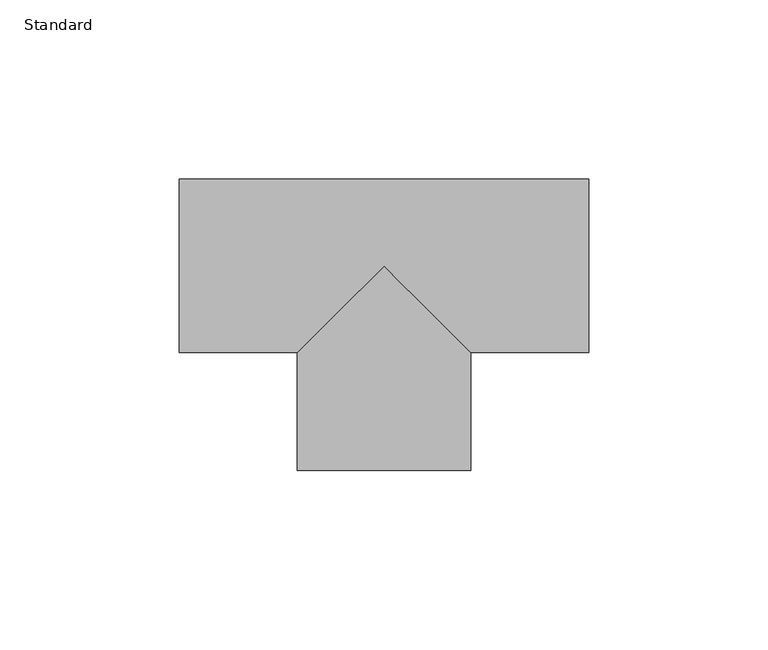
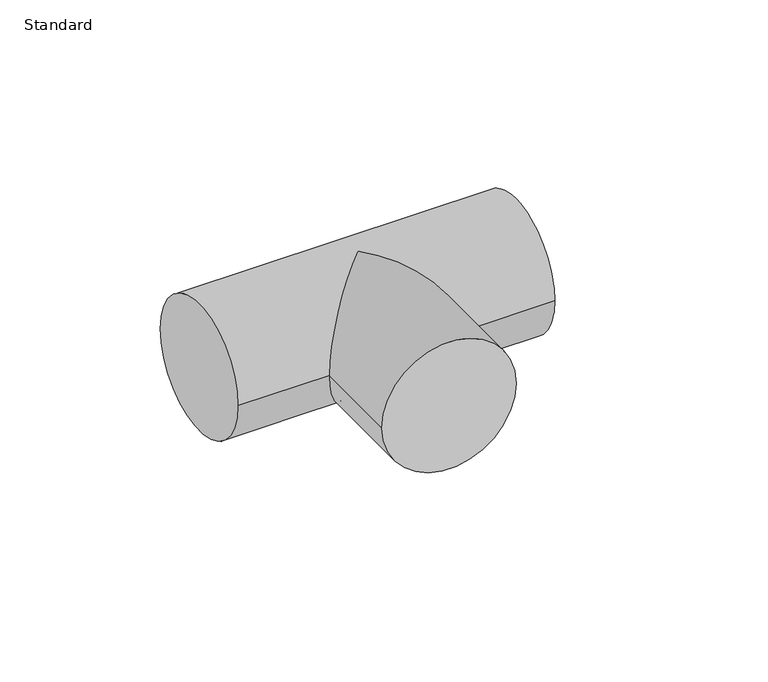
"""IFC4 building model written with IfcOpenShell, lengths in millimetres: pipe fitting geometry, Té - Générique : Standard."""

from ifc_helpers import new_model, si_unit, frame, origin, place, context, project, spatial, circle_curve, ellipse_curve, source, transform, mapped, element, save
from ifc_brep_helpers import plane_surface, cylinder_surface, advanced_brep


def standard_68964c05(model_context):
    return source(origin(), model_context, "Body", "AdvancedBrep", [
        advanced_brep(
        [(-57.0, -24.15, 0.0), (-57.0, 24.15, 0.0), (57.0, -24.15, 0.0), (57.0, 24.15, 0.0), (-24.15, -24.15, 0.0), (0.0, 0.0, 24.15), (24.15, -24.15, 0.0), (0.0, 0.0, -24.15), (-24.15, -57.0, 0.0), (24.15, -57.0, 0.0)],
        [
            (0, 1, circle_curve(frame((-57.0, 0.0, 0.0), z_axis=(-1.0, 0.0, 0.0), x_axis=(0.0, 1.0, 0.0)), 24.15)),
            (1, 0, circle_curve(frame((-57.0, 0.0, 0.0), z_axis=(-1.0, 0.0, 0.0), x_axis=(0.0, 1.0, 0.0)), 24.15)),
            (2, 3, circle_curve(frame((57.0, 0.0, 0.0), z_axis=(1.0, 0.0, 0.0), x_axis=(0.0, 1.0, 0.0)), 24.15)),
            (3, 2, circle_curve(frame((57.0, 0.0, 0.0), z_axis=(1.0, 0.0, 0.0), x_axis=(0.0, 1.0, 0.0)), 24.15)),
            (0, 4),
            (4, 5, ellipse_curve(frame((0.0, 0.0, 0.0), z_axis=(-0.707106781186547, 0.7071067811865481, 0.0), x_axis=(-0.707106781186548, -0.707106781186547, 0.0)), 34.1532575, 24.15)),
            (5, 6, ellipse_curve(frame((0.0, 0.0, 0.0), z_axis=(0.707106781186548, 0.7071067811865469, 0.0), x_axis=(-0.707106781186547, 0.707106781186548, 0.0)), 34.1532575, 24.15)),
            (6, 2),
            (3, 1),
            (6, 7, ellipse_curve(frame((0.0, 0.0, 0.0), z_axis=(0.707106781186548, 0.7071067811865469, 0.0), x_axis=(-0.707106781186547, 0.707106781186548, 0.0)), 34.1532575, 24.15)),
            (7, 4, ellipse_curve(frame((0.0, 0.0, 0.0), z_axis=(-0.707106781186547, 0.7071067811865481, 0.0), x_axis=(-0.707106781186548, -0.707106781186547, 0.0)), 34.1532575, 24.15)),
            (8, 9, circle_curve(frame((0.0, -57.0, 0.0), z_axis=(0.0, -1.0, 0.0), x_axis=(1.0, 0.0, 0.0)), 24.15)),
            (9, 8, circle_curve(frame((0.0, -57.0, 0.0), z_axis=(0.0, -1.0, 0.0), x_axis=(1.0, 0.0, 0.0)), 24.15)),
            (9, 6),
            (4, 8),
        ],
        [
            plane_surface(frame((-57.0, 0.0, 0.0), z_axis=(-1.0, 0.0, 0.0), x_axis=(0.0, 0.0, 1.0))),
            plane_surface(frame((57.0, 0.0, 0.0), z_axis=(1.0, 0.0, 0.0), x_axis=(0.0, 0.0, 1.0))),
            cylinder_surface(frame((-57.0, 0.0, 0.0), z_axis=(-1.0, 0.0, 0.0), x_axis=(0.0, 1.0, 0.0)), 24.15),
            plane_surface(frame((0.0, -57.0, 0.0), z_axis=(0.0, -1.0, 0.0), x_axis=(0.0, 0.0, 1.0))),
            cylinder_surface(frame((0.0, 0.0, 0.0), z_axis=(0.0, 1.0, 0.0), x_axis=(1.0, 0.0, 0.0)), 24.15),
        ],
        [
            (0, [[1, 2]]),
            (1, [[3, 4]]),
            (2, [[-1, 5, 6, 7, 8, -4, 9]]),
            (2, [[-2, -9, -3, -8, 10, 11, -5]]),
            (3, [[12, 13]]),
            (4, [[-13, 14, -7, -6, 15]]),
            (4, [[-12, -15, -11, -10, -14]]),
        ],
    ),
    ])


if __name__ == "__main__":
    model = new_model("IFC4")
    model_context = context("Model", 3, world=origin())
    ifc_project = project(units=[si_unit("LENGTHUNIT", "METRE", prefix="MILLI")], contexts=[model_context])
    site = spatial("IfcSite", under=ifc_project)
    building = spatial("IfcBuilding", under=site)
    placement = place(None, origin())
    standard_shape = standard_68964c05(model_context)
    element("IfcPipeFitting", 1, ObjectType="Té - Générique : Standard", at=placement, inside=building, context=model_context, shape_type="MappedRepresentation", body=[
        mapped(standard_shape, transform((0.0, 0.0, 0.0), x_axis=(1.0, 0.0, 0.0), y_axis=(0.0, 1.0, 0.0), z_axis=(0.0, 0.0, 1.0))),
    ])
    save(model, "model.ifc")
